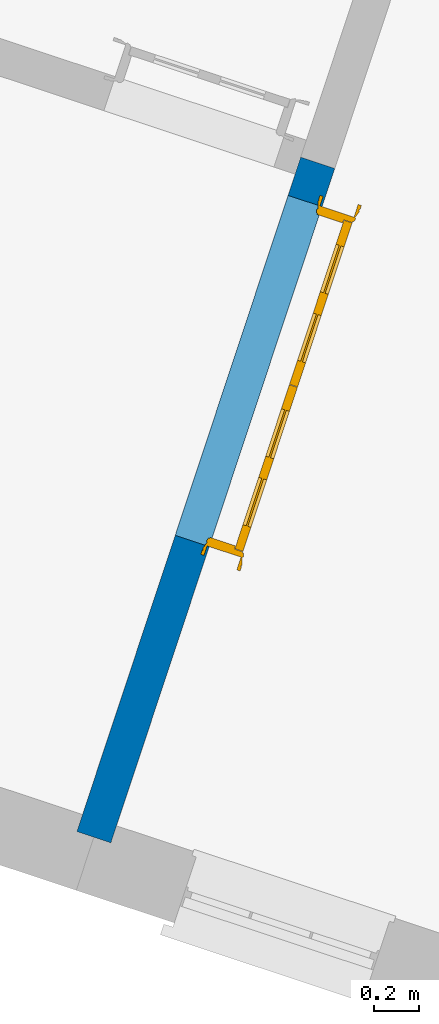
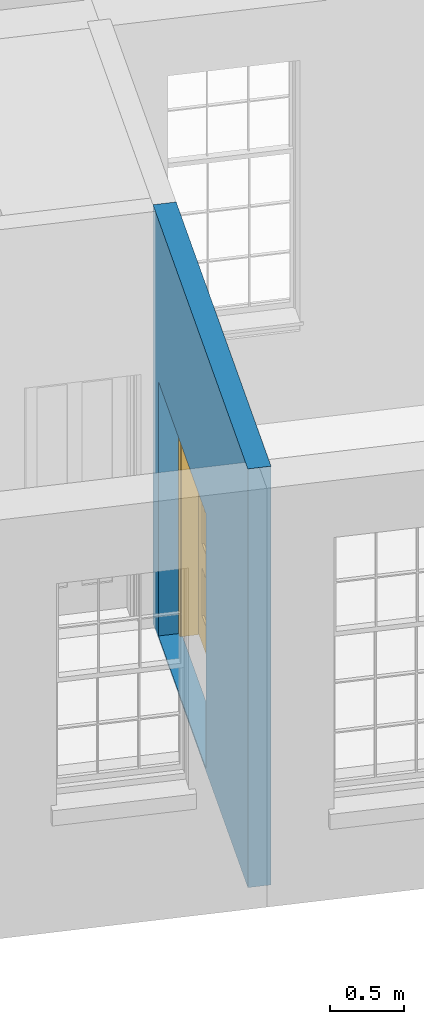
# One storey, part 2 of 6: 1 door, 1 wall, 1 opening.
"""IFC4 building model written with IfcOpenShell, lengths in metres."""

from ifc_helpers import new_model, si_unit, frame, origin, origin_with_axes, place, context, subcontext, project, spatial, polyline, outline, extrude, faceted_brep, source, transform, mapped, material, layer, layer_set, layer_usage, type_object, type_shapes, element, fill, save


model = new_model("IFC4")

# Units and contexts
model_context = context("Model", 3, world=origin_with_axes())
body_context = subcontext(model_context, "Body", "Model", "MODEL_VIEW")
ifc_project = project(units=[si_unit("PLANEANGLEUNIT", "RADIAN"), si_unit("MASSUNIT", "GRAM", prefix="KILO"), si_unit("FORCEUNIT", "NEWTON", prefix="KILO"), si_unit("LENGTHUNIT", "METRE"), si_unit("AREAUNIT", "SQUARE_METRE"), si_unit("VOLUMEUNIT", "CUBIC_METRE")], contexts=[model_context, model_context])

# Sites, building, storey
site_1_placement = place(None, origin_with_axes())
site_1 = spatial("IfcSite", under=ifc_project, at=site_1_placement, Name="Tamar")
site_2_placement = place(site_1_placement, origin_with_axes())
site_2 = spatial("IfcSite", under=site_1, at=site_2_placement, Name="Site plot-16", CompositionType="ELEMENT")
building_placement = place(None, origin_with_axes())
building = spatial("IfcBuilding", under=site_2, at=building_placement, Name="Building plot-16", CompositionType="ELEMENT")
storey_placement = place(None, frame((0.0, 0.0, 26.0), z_axis=(0.0, 0.0, 1.0), x_axis=(1.0, 0.0, 0.0)))
storey = spatial("IfcBuildingStorey", under=building, at=storey_placement, Name="plot-16 0", CompositionType="ELEMENT", Elevation=26.0)

# Wall, opening, door
ifc_material = material(Name="Masonry")
ifc_layer = layer(ifc_material, 0.16, ventilated=False)
ifc_layer_set = layer_set([ifc_layer], Name="interior_0.08_0.08")
ifc_layer_usage = layer_usage(ifc_layer_set, "AXIS2", "POSITIVE", -0.08)
wall_type = type_object("IfcWallType", Name="interior_0.08_0.08", PredefinedType="SOLIDWALL", material=ifc_layer_set)
wall_placement = place(storey_placement, frame((257.317810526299, 296.467436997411, 0.0), z_axis=(0.0, 0.0, 1.0), x_axis=(-0.31503869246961, -0.949078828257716, 0.0)))
wall = element("IfcWall", 1, at=wall_placement, inside=storey, type_object=wall_type, material=ifc_layer_usage, Name="interior", context=body_context, shape_type="SweptSolid", body=[
    extrude(outline(polyline([(-9.03858850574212e-15, 0.0799999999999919), (8.99326419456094e-15, -0.0799999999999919), (3.17446392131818, -0.0799999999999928), (3.17446392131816, 0.0799999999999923), (-9.03858850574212e-15, 0.0799999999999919)])), origin_with_axes(), (0.0, 0.0, 1.0), 3.45),
])
opening_placement = place(wall_placement, frame((0.180000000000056, 0.0, 0.0199999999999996)))
opening = element("IfcOpeningElement", 2, at=opening_placement, cuts=wall, Name="My Opening", ObjectType="Opening", context=body_context, shape_type="SweptSolid", body=[
    extrude(outline(polyline([(0.0, -0.100000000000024), (1.59999999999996, -0.100000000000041), (1.5999999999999, 1.09999999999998), (-6.28108676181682e-14, 1.1), (0.0, -0.100000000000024)])), origin_with_axes(), (0.0, 0.0, 1.0), 2.1),
])
door_type = type_object("IfcDoorType", Name="door_inside_double", OperationType="SINGLE_SWING_LEFT", PredefinedType="NOTDEFINED")
shared_shape = source(origin(), body_context, "Body", "Brep", [
    faceted_brep([(0.14, 0.307, 1.895), (0.14, 0.307, 0.82), (0.363, 0.307, 0.82), (0.363, 0.307, 1.895), (0.14, 0.292, 1.895), (0.14, 0.292, 0.82), (0.363, 0.292, 0.82), (0.363, 0.292, 1.895), (0.027, 0.292, 1.895), (0.027, 0.292, 0.82), (0.363, 0.292, 0.62), (0.14, 0.292, 0.62), (0.463, 0.292, 0.82), (0.463, 0.292, 1.895), (0.363, 0.292, 2.073), (0.14, 0.292, 2.073), (0.027, 0.292, 2.073), (0.027, 0.33, 1.895), (0.027, 0.33, 0.82), (0.027, 0.292, 0.62), (0.463, 0.292, 0.62), (0.14, 0.307, 0.62), (0.363, 0.307, 0.62), (0.463, 0.307, 0.82), (0.463, 0.307, 1.895), (0.463, 0.292, 2.073), (0.14, 0.33, 2.073), (0.363, 0.33, 2.073), (0.027, 0.33, 2.073), (0.14, 0.33, 1.895), (0.14, 0.33, 0.82), (0.027, 0.33, 0.62), (0.027, 0.292, 0.225), (0.14, 0.292, 0.225), (0.363, 0.292, 0.225), (0.463, 0.292, 0.225), (0.686, 0.292, 0.62), (0.686, 0.292, 0.82), (0.14, 0.307, 0.225), (0.363, 0.307, 0.225), (0.686, 0.307, 0.82), (0.686, 0.307, 1.895), (0.686, 0.292, 1.895), (0.686, 0.292, 2.073), (0.463, 0.33, 2.073), (0.363, 0.33, 1.895), (0.14, 0.315, 1.895), (0.14, 0.315, 0.82), (0.14, 0.33, 0.62), (0.027, 0.33, 0.225), (0.027, 0.292, 0.0), (0.14, 0.292, 0.0), (0.363, 0.292, 0.0), (0.463, 0.292, 0.0), (0.463, 0.307, 0.225), (0.463, 0.307, 0.62), (0.686, 0.307, 0.62), (0.799, 0.292, 0.62), (0.799, 0.292, 0.82), (0.799, 0.292, 1.895), (0.799, 0.292, 2.073), (0.686, 0.33, 2.073), (0.463, 0.33, 1.895), (0.363, 0.315, 1.895), (0.363, 0.315, 0.82), (0.363, 0.33, 0.82), (0.363, 0.33, 0.62), (0.14, 0.33, 0.225), (0.027, 0.33, 0.0), (0.14, 0.33, 0.0), (0.363, 0.33, 0.0), (0.463, 0.33, 0.0), (0.686, 0.292, 0.0), (0.686, 0.292, 0.225), (0.686, 0.307, 0.225), (0.799, 0.292, 0.225), (0.799, 0.33, 0.62), (0.799, 0.33, 0.82), (0.799, 0.33, 1.895), (0.799, 0.33, 2.073), (0.686, 0.33, 1.895), (0.463, 0.33, 0.82), (0.463, 0.33, 0.62), (0.363, 0.315, 0.62), (0.14, 0.315, 0.62), (0.14, 0.315, 0.225), (0.363, 0.33, 0.225), (0.463, 0.33, 0.225), (0.686, 0.33, 0.0), (0.799, 0.292, 0.0), (0.799, 0.33, 0.225), (0.686, 0.33, 0.62), (0.686, 0.33, 0.82), (0.686, 0.315, 1.895), (0.463, 0.315, 1.895), (0.463, 0.315, 0.82), (0.363, 0.315, 0.225), (0.686, 0.33, 0.225), (0.799, 0.33, 0.0), (0.686, 0.315, 0.82), (0.463, 0.315, 0.62), (0.463, 0.315, 0.225), (0.686, 0.315, 0.62), (0.686, 0.315, 0.225), (1.46, 0.33, 1.895), (1.237, 0.33, 1.895), (1.237, 0.33, 2.073), (1.46, 0.33, 2.073), (1.46, 0.315, 1.895), (1.237, 0.315, 1.895), (1.137, 0.33, 1.895), (1.137, 0.33, 2.073), (1.237, 0.292, 2.073), (1.46, 0.292, 2.073), (1.573, 0.33, 1.895), (1.573, 0.33, 2.073), (1.46, 0.33, 0.82), (1.46, 0.315, 0.82), (1.237, 0.315, 0.82), (1.237, 0.33, 0.82), (1.137, 0.33, 0.82), (0.914, 0.33, 2.073), (0.914, 0.33, 1.895), (1.137, 0.292, 2.073), (1.237, 0.292, 1.895), (1.46, 0.292, 1.895), (1.573, 0.292, 2.073), (1.573, 0.33, 0.82), (1.573, 0.292, 1.895), (1.237, 0.33, 0.62), (1.137, 0.33, 0.62), (1.137, 0.315, 0.82), (1.137, 0.315, 1.895), (0.914, 0.292, 2.073), (0.914, 0.315, 1.895), (0.801, 0.33, 2.073), (0.801, 0.33, 1.895), (1.137, 0.292, 1.895), (1.237, 0.307, 1.895), (1.46, 0.307, 1.895), (1.573, 0.292, 0.82), (1.573, 0.33, 0.62), (1.46, 0.33, 0.62), (1.237, 0.33, 0.225), (1.137, 0.33, 0.225), (0.914, 0.33, 0.82), (0.914, 0.33, 0.62), (0.914, 0.315, 0.82), (0.801, 0.292, 2.073), (0.914, 0.292, 1.895), (0.801, 0.33, 0.82), (0.801, 0.292, 1.895), (1.137, 0.292, 0.82), (1.237, 0.292, 0.82), (1.237, 0.307, 0.82), (1.46, 0.307, 0.82), (1.46, 0.292, 0.82), (1.573, 0.292, 0.62), (1.573, 0.33, 0.225), (1.46, 0.33, 0.225), (1.46, 0.315, 0.62), (1.237, 0.315, 0.62), (1.237, 0.33, 0.0), (1.137, 0.33, 0.0), (1.137, 0.315, 0.225), (1.137, 0.315, 0.62), (1.237, 0.315, 0.225), (0.914, 0.315, 0.62), (0.801, 0.33, 0.62), (0.914, 0.307, 1.895), (1.137, 0.307, 1.895), (0.801, 0.292, 0.82), (1.137, 0.292, 0.62), (1.237, 0.292, 0.62), (1.137, 0.307, 0.82), (1.46, 0.292, 0.62), (1.573, 0.292, 0.225), (1.573, 0.33, 0.0), (1.46, 0.33, 0.0), (1.46, 0.315, 0.225), (1.237, 0.292, 0.0), (1.137, 0.292, 0.0), (0.914, 0.33, 0.225), (0.914, 0.33, 0.0), (0.914, 0.315, 0.225), (0.801, 0.33, 0.225), (0.801, 0.292, 0.62), (0.914, 0.292, 0.82), (0.914, 0.307, 0.82), (1.137, 0.292, 0.225), (1.237, 0.292, 0.225), (0.914, 0.292, 0.62), (1.46, 0.292, 0.225), (1.573, 0.292, 0.0), (1.46, 0.292, 0.0), (0.914, 0.292, 0.0), (0.801, 0.33, 0.0), (0.801, 0.292, 0.225), (1.237, 0.307, 0.225), (1.237, 0.307, 0.62), (1.137, 0.307, 0.62), (1.137, 0.307, 0.225), (1.46, 0.307, 0.62), (0.914, 0.307, 0.62), (1.46, 0.307, 0.225), (0.914, 0.292, 0.225), (0.801, 0.292, 0.0), (0.914, 0.307, 0.225), (0.02, 0.335, 0.0), (0.005, 0.34, 0.0), (0.005, 0.34, 2.095), (0.02, 0.335, 2.08), (0.02, 0.33, 0.0), (0.0, 0.335, 0.0), (0.0, 0.335, 2.1), (1.595, 0.34, 2.095), (1.58, 0.335, 2.08), (0.02, 0.33, 2.08), (0.0, 0.33, 0.0), (-0.032, 0.345, 0.0), (-0.032, 0.345, 2.132), (1.6, 0.335, 2.1), (1.595, 0.34, 0.0), (1.58, 0.335, 0.0), (1.58, 0.33, 2.08), (0.025, 0.33, 0.0), (0.025, 0.33, 2.075), (-0.04, 0.34, 0.0), (0.025, 0.29, 0.0), (0.0, 0.17, 0.0), (-0.04, 0.34, 2.14), (1.632, 0.345, 2.132), (1.6, 0.335, 0.0), (1.58, 0.33, 0.0), (1.575, 0.33, 2.075), (0.025, 0.29, 2.075), (-0.06, 0.33, 0.0), (0.035, 0.17, 0.0), (0.0, 0.17, 2.1), (0.0, 0.33, 2.1), (-0.04, 0.345, 0.0), (-0.04, 0.345, 2.14), (1.64, 0.34, 2.14), (1.632, 0.345, 0.0), (1.6, 0.33, 0.0), (1.575, 0.33, 0.0), (1.575, 0.29, 2.075), (0.04, 0.29, 0.0), (0.04, 0.29, 2.06), (-0.06, 0.345, 0.0), (-0.06, 0.33, 2.16), (0.015, 0.165, 0.0), (0.04, 0.17, 0.0), (-0.045, 0.17, 2.145), (-0.045, 0.17, 0.0), (1.6, 0.17, 2.1), (1.6, 0.33, 2.1), (-0.06, 0.345, 2.16), (1.64, 0.345, 2.14), (1.64, 0.34, 0.0), (1.6, 0.17, 0.0), (1.575, 0.29, 0.0), (1.56, 0.29, 2.06), (0.04, 0.17, 2.06), (1.66, 0.33, 2.16), (-0.017, 0.155, 0.0), (-0.025, 0.16, 0.0), (0.02, 0.16, 0.0), (0.035, 0.165, 0.0), (0.035, 0.17, 2.065), (1.645, 0.17, 2.145), (-0.045, 0.155, 2.145), (-0.045, 0.155, 0.0), (1.66, 0.345, 2.16), (1.64, 0.345, 0.0), (1.66, 0.33, 0.0), (1.565, 0.17, 0.0), (1.56, 0.29, 0.0), (1.56, 0.17, 2.06), (-0.017, 0.155, 2.117), (-0.025, 0.16, 2.125), (0.015, 0.165, 2.085), (0.02, 0.16, 2.08), (0.035, 0.165, 2.065), (1.565, 0.17, 2.065), (1.645, 0.17, 0.0), (1.645, 0.155, 2.145), (-0.025, 0.155, 0.0), (1.66, 0.345, 0.0), (1.585, 0.165, 0.0), (1.56, 0.17, 0.0), (1.617, 0.155, 2.117), (1.625, 0.16, 2.125), (-0.025, 0.155, 2.125), (1.585, 0.165, 2.085), (1.58, 0.16, 2.08), (1.565, 0.165, 2.065), (1.625, 0.16, 0.0), (1.645, 0.155, 0.0), (1.625, 0.155, 2.125), (1.617, 0.155, 0.0), (1.565, 0.165, 0.0), (1.58, 0.16, 0.0), (1.625, 0.155, 0.0)], [[[0, 1, 2, 3]], [[1, 0, 4, 5]], [[2, 1, 5, 6]], [[6, 7, 3, 2]], [[7, 4, 0, 3]], [[4, 8, 9, 5]], [[10, 6, 5, 11]], [[6, 12, 13, 7]], [[14, 15, 4, 7]], [[15, 16, 8, 4]], [[9, 8, 17, 18]], [[5, 9, 19, 11]], [[10, 20, 12, 6]], [[10, 11, 21, 22]], [[13, 12, 23, 24]], [[7, 13, 25, 14]], [[26, 15, 14, 27]], [[28, 16, 15, 26]], [[8, 16, 28, 17]], [[17, 29, 30, 18]], [[18, 31, 19, 9]], [[11, 19, 32, 33]], [[34, 35, 20, 10]], [[20, 36, 37, 12]], [[11, 33, 38, 21]], [[39, 22, 21, 38]], [[34, 10, 22, 39]], [[12, 37, 40, 23]], [[24, 23, 40, 41]], [[42, 13, 24, 41]], [[13, 42, 43, 25]], [[14, 25, 44, 27]], [[26, 27, 45, 29]], [[28, 26, 29, 17]], [[30, 29, 46, 47]], [[18, 30, 48, 31]], [[31, 49, 32, 19]], [[33, 32, 50, 51]], [[52, 53, 35, 34]], [[20, 35, 54, 55]], [[36, 20, 55, 56]], [[36, 57, 58, 37]], [[33, 34, 39, 38]], [[37, 42, 41, 40]], [[42, 59, 60, 43]], [[44, 25, 43, 61]], [[62, 45, 27, 44]], [[29, 45, 63, 46]], [[46, 63, 64, 47]], [[65, 30, 47, 64]], [[30, 65, 66, 48]], [[31, 48, 67, 49]], [[68, 50, 32, 49]], [[68, 69, 51, 50]], [[34, 33, 51, 52]], [[53, 52, 70, 71]], [[53, 72, 73, 35]], [[35, 73, 74, 54]], [[55, 54, 74, 56]], [[73, 36, 56, 74]], [[73, 75, 57, 36]], [[57, 76, 77, 58]], [[37, 58, 59, 42]], [[78, 79, 60, 59]], [[60, 79, 61, 43]], [[80, 62, 44, 61]], [[81, 65, 45, 62]], [[45, 65, 64, 63]], [[82, 66, 65, 81]], [[48, 66, 83, 84]], [[67, 48, 84, 85]], [[49, 67, 69, 68]], [[52, 51, 69, 70]], [[71, 70, 86, 87]], [[72, 53, 71, 88]], [[72, 89, 75, 73]], [[75, 90, 76, 57]], [[76, 91, 92, 77]], [[78, 59, 58, 77]], [[78, 80, 61, 79]], [[62, 80, 93, 94]], [[81, 62, 94, 95]], [[87, 86, 66, 82]], [[91, 82, 81, 92]], [[66, 86, 96, 83]], [[84, 83, 96, 85]], [[86, 67, 85, 96]], [[67, 86, 70, 69]], [[88, 71, 87, 97]], [[89, 72, 88, 98]], [[89, 98, 90, 75]], [[90, 97, 91, 76]], [[80, 78, 77, 92]], [[80, 92, 99, 93]], [[99, 95, 94, 93]], [[92, 81, 95, 99]], [[87, 82, 100, 101]], [[82, 91, 102, 100]], [[97, 87, 101, 103]], [[98, 88, 97, 90]], [[91, 97, 103, 102]], [[103, 101, 100, 102]], [[104, 105, 106, 107]], [[105, 104, 108, 109]], [[105, 110, 111, 106]], [[106, 112, 113, 107]], [[114, 104, 107, 115]], [[104, 116, 117, 108]], [[117, 118, 109, 108]], [[119, 105, 109, 118]], [[119, 120, 110, 105]], [[121, 111, 110, 122]], [[123, 112, 106, 111]], [[124, 125, 113, 112]], [[126, 115, 107, 113]], [[104, 114, 127, 116]], [[114, 115, 126, 128]], [[116, 119, 118, 117]], [[129, 130, 120, 119]], [[110, 120, 131, 132]], [[121, 133, 123, 111]], [[122, 110, 132, 134]], [[135, 121, 122, 136]], [[137, 124, 112, 123]], [[125, 124, 138, 139]], [[125, 128, 126, 113]], [[114, 128, 140, 127]], [[141, 142, 116, 127]], [[142, 129, 119, 116]], [[143, 144, 130, 129]], [[145, 120, 130, 146]], [[120, 145, 147, 131]], [[134, 132, 131, 147]], [[135, 148, 133, 121]], [[123, 133, 149, 137]], [[145, 122, 134, 147]], [[136, 122, 145, 150]], [[151, 148, 135, 136]], [[152, 153, 124, 137]], [[124, 153, 154, 138]], [[138, 154, 155, 139]], [[156, 125, 139, 155]], [[156, 140, 128, 125]], [[157, 141, 127, 140]], [[158, 159, 142, 141]], [[129, 142, 160, 161]], [[162, 163, 144, 143]], [[130, 144, 164, 165]], [[143, 129, 161, 166]], [[146, 130, 165, 167]], [[150, 145, 146, 168]], [[133, 148, 151, 149]], [[137, 149, 169, 170]], [[171, 151, 136, 150]], [[172, 173, 153, 152]], [[152, 137, 170, 174]], [[153, 156, 155, 154]], [[175, 157, 140, 156]], [[176, 158, 141, 157]], [[177, 178, 159, 158]], [[142, 159, 179, 160]], [[179, 166, 161, 160]], [[180, 181, 163, 162]], [[182, 144, 163, 183]], [[178, 162, 143, 159]], [[144, 182, 184, 164]], [[167, 165, 164, 184]], [[159, 143, 166, 179]], [[182, 146, 167, 184]], [[168, 146, 182, 185]], [[150, 168, 186, 171]], [[149, 151, 171, 187]], [[149, 187, 188, 169]], [[169, 188, 174, 170]], [[189, 190, 173, 172]], [[173, 175, 156, 153]], [[172, 152, 187, 191]], [[187, 152, 174, 188]], [[192, 176, 157, 175]], [[193, 177, 158, 176]], [[193, 194, 178, 177]], [[181, 180, 190, 189]], [[181, 195, 183, 163]], [[194, 180, 162, 178]], [[185, 182, 183, 196]], [[168, 185, 197, 186]], [[187, 171, 186, 191]], [[173, 190, 198, 199]], [[189, 172, 200, 201]], [[175, 173, 199, 202]], [[172, 191, 203, 200]], [[194, 193, 176, 192]], [[192, 175, 202, 204]], [[180, 194, 192, 190]], [[189, 205, 195, 181]], [[196, 183, 195, 206]], [[196, 206, 197, 185]], [[191, 186, 197, 205]], [[190, 192, 204, 198]], [[199, 198, 204, 202]], [[201, 200, 203, 207]], [[205, 189, 201, 207]], [[191, 205, 207, 203]], [[205, 197, 206, 195]], [[208, 209, 210, 211]], [[208, 212, 213, 209]], [[209, 213, 214, 210]], [[211, 210, 215, 216]], [[211, 217, 212, 208]], [[218, 213, 212]], [[213, 219, 220, 214]], [[210, 214, 221, 215]], [[216, 215, 222, 223]], [[217, 211, 216, 224]], [[225, 212, 217, 226]], [[219, 213, 218, 227]], [[218, 212, 228, 229]], [[219, 227, 230, 220]], [[214, 220, 231, 221]], [[215, 221, 232, 222]], [[222, 232, 233, 223]], [[224, 216, 223, 233]], [[226, 217, 224, 234]], [[225, 228, 212]], [[235, 228, 225, 226]], [[236, 227, 218]], [[237, 229, 228]], [[229, 238, 239, 218]], [[227, 240, 241, 230]], [[220, 230, 242, 231]], [[221, 231, 243, 232]], [[244, 233, 232]], [[234, 224, 233, 245]], [[246, 235, 226, 234]], [[247, 228, 235, 248]], [[240, 227, 236, 249]], [[239, 250, 236, 218]], [[251, 229, 237]], [[252, 237, 228, 247]], [[253, 238, 229, 254]], [[238, 255, 256, 239]], [[241, 240, 257]], [[230, 241, 258, 242]], [[231, 242, 259, 243]], [[259, 244, 232, 243]], [[260, 261, 233, 244]], [[245, 233, 261]], [[261, 246, 234, 245]], [[248, 235, 246, 262]], [[248, 263, 252, 247]], [[250, 257, 249, 236]], [[240, 249, 257]], [[256, 264, 250, 239]], [[265, 266, 229, 251]], [[267, 251, 237, 268]], [[263, 269, 237, 252]], [[270, 255, 238, 253]], [[229, 266, 254]], [[271, 253, 254, 272]], [[256, 255, 260, 244]], [[273, 241, 257]], [[273, 258, 241]], [[242, 258, 274, 259]], [[275, 244, 259]], [[260, 276, 261]], [[261, 277, 262, 246]], [[262, 278, 263, 248]], [[264, 273, 257, 250]], [[244, 275, 264, 256]], [[266, 265, 279, 280]], [[265, 251, 281, 279]], [[251, 267, 282, 281]], [[269, 283, 268, 237]], [[267, 268, 283, 282]], [[278, 284, 269, 263]], [[285, 260, 255, 270]], [[286, 270, 253, 271]], [[272, 254, 266, 287]], [[271, 272, 287]], [[273, 274, 258]], [[288, 275, 259, 274]], [[276, 260, 289]], [[277, 261, 276, 290]], [[278, 262, 277, 290]], [[275, 288, 273, 264]], [[280, 279, 291, 292]], [[287, 266, 280, 293]], [[279, 281, 294, 291]], [[281, 282, 295, 294]], [[284, 296, 283, 269]], [[282, 283, 296, 295]], [[290, 276, 284, 278]], [[285, 297, 260]], [[298, 285, 270, 286]], [[299, 286, 271]], [[271, 287, 293]], [[273, 288, 274]], [[300, 289, 260, 297]], [[301, 276, 289, 302]], [[292, 291, 300, 297]], [[293, 280, 292, 299]], [[291, 294, 289, 300]], [[294, 295, 302, 289]], [[296, 284, 276, 301]], [[295, 296, 301, 302]], [[303, 297, 285, 298]], [[299, 298, 286]], [[271, 293, 299]], [[299, 292, 297, 303]], [[299, 303, 298]]]),
])
type_shapes(door_type, [shared_shape])
door_placement = place(storey_placement, frame((257.166195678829, 296.328106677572, 0.0199999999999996), z_axis=(0.0, 0.0, 1.0), x_axis=(-0.504061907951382, -1.5185261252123, 0.0)))
door = element("IfcDoor", 3, at=door_placement, inside=storey, type_object=door_type, Name="kitchen living inside door", OverallHeight=2.1, OverallWidth=1.6, context=body_context, shape_type="MappedRepresentation", body=[
    mapped(shared_shape, transform((0.0, 0.0, 0.0), scale=1.0)),
])
fill(opening, door)

save(model, "model.ifc")
